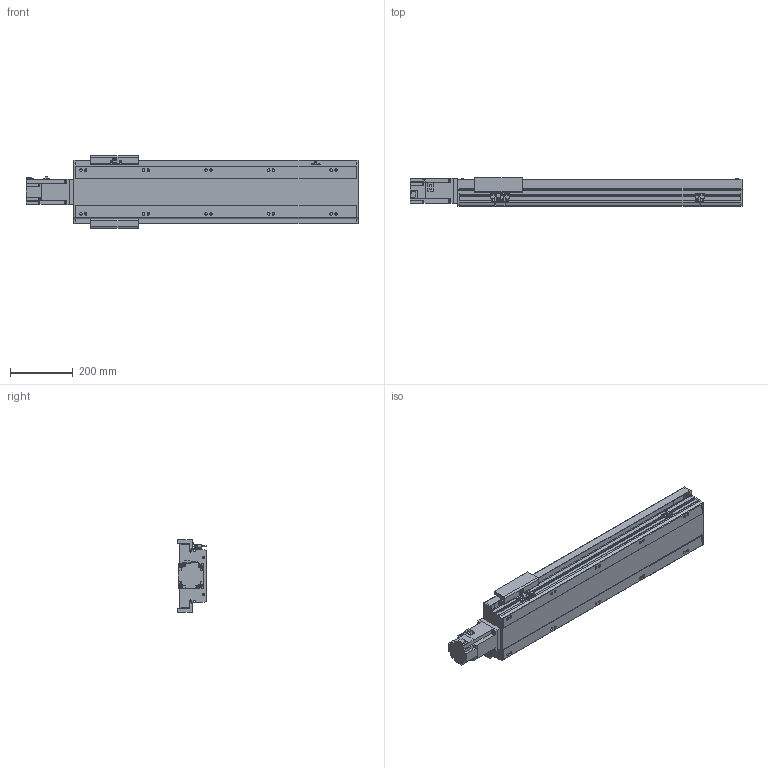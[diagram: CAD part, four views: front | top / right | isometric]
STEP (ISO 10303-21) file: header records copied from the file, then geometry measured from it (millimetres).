
FILE_DESCRIPTION(/* description */ ('STEP AP214'),/* implementation_level */ '2;1');
FILE_NAME(/* name */ 'PSM170-L10-S650-BC-T75-C1-N(0)',/* time_stamp */ '2022-06-13T03:24:25+02:00',/* author */ ('License CC BY-ND 4.0'),/* organization */ ('CADENAS'),/* preprocessor_version */ 'ST-DEVELOPER v18.102',/* originating_system */ 'PARTsolutions',/* authorisation */ ' ');
FILE_SCHEMA (('AUTOMOTIVE_DESIGN {1 0 10303 214 3 1 1}'));
Length unit declared in the file: millimetre
Products named in the file (8): PSM170-L10-S650-BC-T75-C1-N(0); PSM-Sensor; PSM140-S650-892.5; T75-p1; PSM170_body2; PSM170_body3; PSM170-S650_body1; PSM170-L10-S650-BC-T75-C1-N(0)_dummy
Assembly tree (11 placements, depth 2):
  PSM170-L10-S650-BC-T75-C1-N(0)
    PSM-Sensor  x3
    PSM140-S650-892.5  x3
    T75-p1
    PSM170_body2
    PSM170_body3
    PSM170-S650_body1
    PSM170-L10-S650-BC-T75-C1-N(0)_dummy
Bounding box: 1061.3 x 92 x 233 mm (x, y, z)
Volume: 6478014.3 mm3; surface area: 1235917.6 mm2
Topology: 10 solids, 10 shells, 1031 faces, 2749 edges, 1790 vertices
Faces by surface type: plane 652, cylinder 305, cone 60, torus 14
Full cylindrical faces by diameter (mm): 2.8 x3, 3.08 x1, 4.134 x4, 4.5 x12, 4.6 x3, 5.7 x2, 6 x9, 6.647 x18, 7 x8, 7.6 x4, 8 x8, 8.5 x10, 10 x4, 14 x10, 45 x1, 70 x1
Entity records: 27025 total; most frequent: CARTESIAN_POINT 4934, DIRECTION 4522, ORIENTED_EDGE 4332, EDGE_CURVE 2166, AXIS2_PLACEMENT_3D 1523, VERTEX_POINT 1514, LINE 1476, VECTOR 1476
